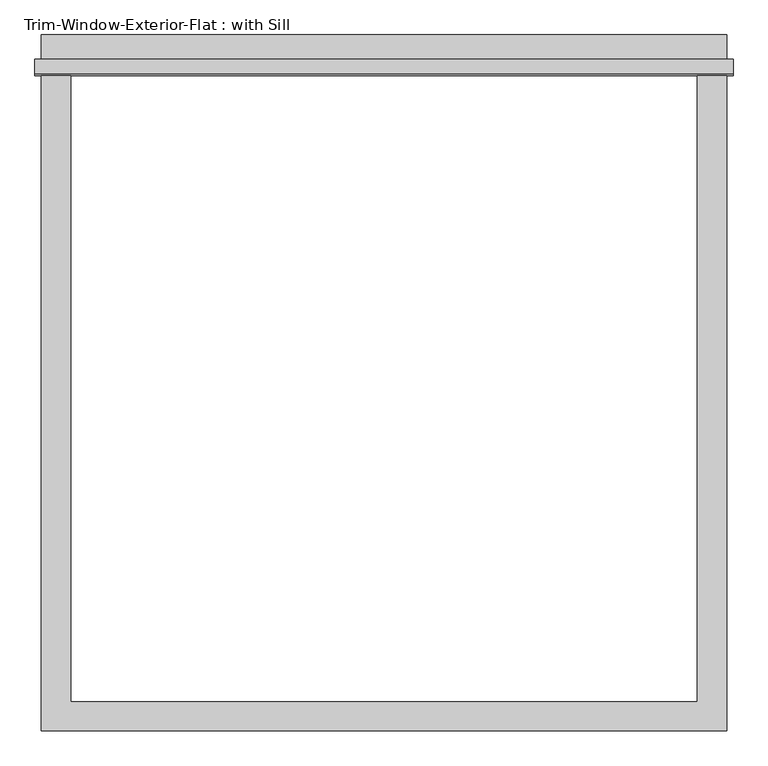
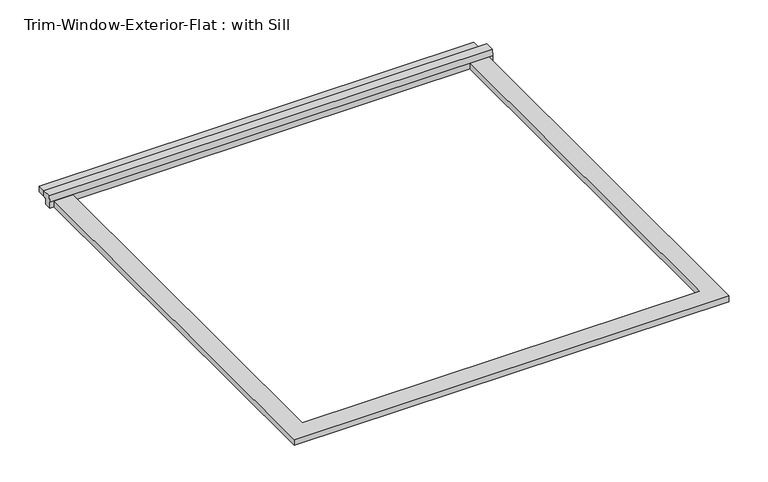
"""IFC4 building model written with IfcOpenShell, lengths in millimetres: proxy geometry, Trim-Window-Exterior-Flat : with Sill."""

from ifc_helpers import new_model, si_unit, frame, origin, origin_with_axes, place, context, project, spatial, polyline, outline, extrude, source, transform, mapped, element, save


def trim_window_exterior_flat_with_sill_ac84ebb5(model_context):
    return source(origin(), model_context, "Body", "SweptSolid", [
        extrude(outline(polyline([(666.75, 1241.3823709), (-666.75, 1241.3823709), (-666.75, 1298.5323709), (666.75, 1298.5323709), (666.75, 1241.3823709)])), origin_with_axes(), (0.0, 0.0, 1.0), 19.05),
        extrude(outline(polyline([(1250.95, 38.1), (1250.95, 19.05), (1241.3823709, 19.05), (1241.3823709, 0.0), (1219.2, 0.0), (1219.2, 19.05), (1221.6580645, 38.1), (1250.95, 38.1)])), frame((-679.45, 0.0, 0.0), z_axis=(1.0, 0.0, 0.0), x_axis=(0.0, 1.0, 0.0)), (0.0, 0.0, 1.0), 1358.9),
        extrude(outline(polyline([(-666.75, -57.15), (-666.75, 1219.2), (-609.6, 1219.2), (-609.6, 0.0), (609.6, 0.0), (609.6, 1219.2), (666.75, 1219.2), (666.75, -57.15), (-666.75, -57.15)])), origin_with_axes(), (0.0, 0.0, 1.0), 19.05),
    ])


if __name__ == "__main__":
    model = new_model("IFC4")
    model_context = context("Model", 3, world=origin())
    ifc_project = project(units=[si_unit("LENGTHUNIT", "METRE", prefix="MILLI")], contexts=[model_context])
    site = spatial("IfcSite", under=ifc_project)
    building = spatial("IfcBuilding", under=site)
    placement = place(None, origin())
    trim_window_exterior_flat_with_sill_shape = trim_window_exterior_flat_with_sill_ac84ebb5(model_context)
    element("IfcBuildingElementProxy", 1, Name="Trim-Window-Exterior-Flat : with Sill", ObjectType="Trim-Window-Exterior-Flat : with Sill", at=placement, inside=building, context=model_context, shape_type="MappedRepresentation", body=[
        mapped(trim_window_exterior_flat_with_sill_shape, transform((0.0, 0.0, 0.0), x_axis=(1.0, 0.0, 0.0), y_axis=(0.0, 1.0, 0.0), z_axis=(0.0, 0.0, 1.0))),
    ])
    save(model, "model.ifc")
